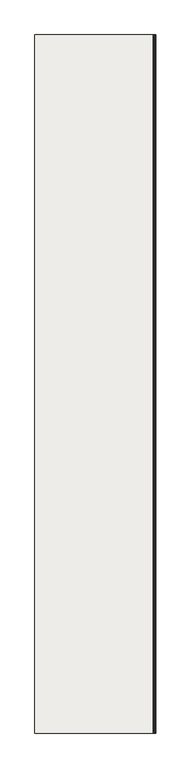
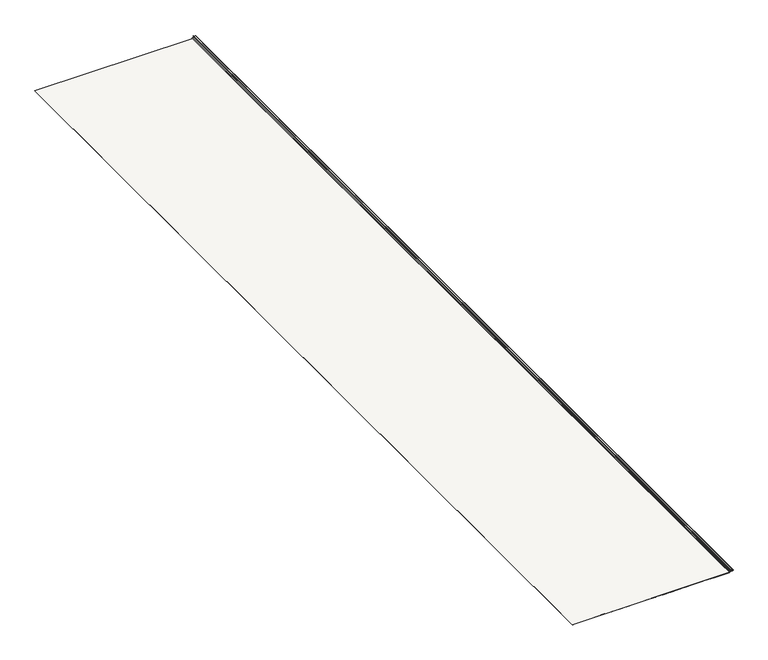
"""IFC4 building model written with IfcOpenShell, lengths in millimetres: covering geometry, Płyta warstwowa ścienna SPW-S CORE WOOL (pojedynczy arkusz) : -."""

from ifc_helpers import new_model, si_unit, frame, origin, place, context, project, spatial, polyline, circle_curve, source, transform, mapped, element, save
from ifc_brep_helpers import plane_surface, cylinder_surface, revolved_surface, advanced_brep


def covering_6310a69d(model_context):
    return source(origin(), model_context, "Body", "AdvancedBrep", [
        advanced_brep(
        [(-43.1186621, 0.0, -79.0), (-41.1186621, 0.0, -77.0), (-41.1186621, 0.0, -74.93), (-39.1884611, 0.0, -72.9312183), (-22.5992017, 0.0, -72.3519086), (-22.43132, 0.0, -67.5379716), (-33.6570079, 0.0, -66.9496582), (-36.5, 0.0, -63.9537696), (-36.5, 0.0, -61.4537696), (-35.5, 0.0, -61.4537696), (-35.5, 0.0, -63.9537696), (-33.6046719, 0.0, -65.9510287), (-22.6550677, 0.0, -66.5248731), (-22.6835162, 0.0, -73.3501612), (-39.1535616, 0.0, -73.9306092), (-40.1186621, 0.0, -74.93), (-40.1186621, 0.0, -77.0), (-43.1186621, 0.0, -80.0), (-90.0275239, 0.0, -80.0), (-91.4098003, 0.0, -79.6), (-135.6275239, 0.0, -79.6), (-137.0098003, 0.0, -80.0), (-181.2275239, 0.0, -80.0), (-182.6098003, 0.0, -79.6), (-226.8275239, 0.0, -79.6), (-228.2098003, 0.0, -80.0), (-272.4275239, 0.0, -80.0), (-273.8098003, 0.0, -79.6), (-318.0275239, 0.0, -79.6), (-319.4098003, 0.0, -80.0), (-363.6275239, 0.0, -80.0), (-365.0098003, 0.0, -79.6), (-409.2275239, 0.0, -79.6), (-410.6098003, 0.0, -80.0), (-454.8275239, 0.0, -80.0), (-456.2098003, 0.0, -79.6), (-500.4275239, 0.0, -79.6), (-501.8098003, 0.0, -80.0), (-546.0275239, 0.0, -80.0), (-547.4098003, 0.0, -79.6), (-591.6275239, 0.0, -79.6), (-593.0098003, 0.0, -80.0), (-637.2275239, 0.0, -80.0), (-638.6098003, 0.0, -79.6), (-682.8275239, 0.0, -79.6), (-684.2098003, 0.0, -80.0), (-728.4275239, 0.0, -80.0), (-729.8098003, 0.0, -79.6), (-774.0275239, 0.0, -79.6), (-775.4098003, 0.0, -80.0), (-819.6275239, 0.0, -80.0), (-821.0098003, 0.0, -79.6), (-865.2275239, 0.0, -79.6), (-866.6098003, 0.0, -80.0), (-910.8275239, 0.0, -80.0), (-912.2098003, 0.0, -79.6), (-956.4275239, 0.0, -79.6), (-957.8098003, 0.0, -80.0), (-1002.0275239, 0.0, -80.0), (-1003.4098003, 0.0, -79.6), (-1022.9974676, 0.0, -79.6), (-1022.9974676, 0.0, -79.0), (-1003.4098003, -5800.0, -79.6), (-1002.0275239, -5800.0, -80.0), (-957.8098003, -5800.0, -80.0), (-956.4275239, -5800.0, -79.6), (-912.2098003, -5800.0, -79.6), (-910.8275239, -5800.0, -80.0), (-866.6098003, -5800.0, -80.0), (-865.2275239, -5800.0, -79.6), (-821.0098003, -5800.0, -79.6), (-819.6275239, -5800.0, -80.0), (-775.4098003, -5800.0, -80.0), (-774.0275239, -5800.0, -79.6), (-729.8098003, -5800.0, -79.6), (-728.4275239, -5800.0, -80.0), (-684.2098003, -5800.0, -80.0), (-682.8275239, -5800.0, -79.6), (-638.6098003, -5800.0, -79.6), (-637.2275239, -5800.0, -80.0), (-593.0098003, -5800.0, -80.0), (-591.6275239, -5800.0, -79.6), (-547.4098003, -5800.0, -79.6), (-546.0275239, -5800.0, -80.0), (-501.8098003, -5800.0, -80.0), (-500.4275239, -5800.0, -79.6), (-456.2098003, -5800.0, -79.6), (-454.8275239, -5800.0, -80.0), (-410.6098003, -5800.0, -80.0), (-409.2275239, -5800.0, -79.6), (-365.0098003, -5800.0, -79.6), (-363.6275239, -5800.0, -80.0), (-319.4098003, -5800.0, -80.0), (-318.0275239, -5800.0, -79.6), (-273.8098003, -5800.0, -79.6), (-272.4275239, -5800.0, -80.0), (-228.2098003, -5800.0, -80.0), (-226.8275239, -5800.0, -79.6), (-182.6098003, -5800.0, -79.6), (-181.2275239, -5800.0, -80.0), (-137.0098003, -5800.0, -80.0), (-135.6275239, -5800.0, -79.6), (-91.4098003, -5800.0, -79.6), (-90.0275239, -5800.0, -80.0), (-43.1186621, -5800.0, -80.0), (-40.1186621, -5800.0, -77.0), (-40.1186621, -5800.0, -74.93), (-39.1535616, -5800.0, -73.9306092), (-22.7218558, -5800.0, -73.3568014), (-22.6550677, -5800.0, -66.5248731), (-33.6046719, -5800.0, -65.9510287), (-35.5, -5800.0, -63.9537696), (-35.5, -5800.0, -61.4537696), (-36.5, -5800.0, -61.4537696), (-36.5, -5800.0, -63.9537696), (-33.6570079, -5800.0, -66.9496582), (-22.43132, -5800.0, -67.5379716), (-22.5993141, -5800.0, -72.3486915), (-39.1884611, -5800.0, -72.9312183), (-41.1186621, -5800.0, -74.93), (-41.1186621, -5800.0, -77.0), (-43.1186621, -5800.0, -79.0), (-1022.9974676, -5800.0, -79.0), (-1022.9974676, -5800.0, -79.6)],
        [
            (0, 1, circle_curve(frame((-43.1186621, 0.0, -77.0), z_axis=(0.0, -1.0, 0.0), x_axis=(1.0, 0.0, 0.0)), 2.0)),
            (1, 2),
            (2, 3, circle_curve(frame((-39.1186621, 0.0, -74.93), z_axis=(0.0, 1.0, 0.0), x_axis=(1.0, 0.0, 0.0)), 2.0)),
            (3, 4),
            (4, 5, circle_curve(frame((-22.6835162, 0.0, -69.9374579), z_axis=(0.0, -1.0, 0.0), x_axis=(1.0, 0.0, 0.0)), 2.4127033)),
            (5, 6),
            (6, 7, circle_curve(frame((-33.5, 0.0, -63.9537696), z_axis=(0.0, 1.0, 0.0), x_axis=(1.0, 0.0, 0.0)), 3.0)),
            (7, 8),
            (8, 9),
            (9, 10),
            (10, 11, circle_curve(frame((-33.5, 0.0, -63.9537696), z_axis=(0.0, -1.0, 0.0), x_axis=(1.0, 0.0, 0.0)), 2.0)),
            (11, 12),
            (12, 13, circle_curve(frame((-22.6835162, 0.0, -69.9374579), z_axis=(0.0, 1.0, 0.0), x_axis=(1.0, 0.0, 0.0)), 3.4127033)),
            (13, 14),
            (14, 15, circle_curve(frame((-39.1186621, 0.0, -74.93), z_axis=(0.0, -1.0, 0.0), x_axis=(1.0, 0.0, 0.0)), 1.0)),
            (15, 16),
            (16, 17, circle_curve(frame((-43.1186621, 0.0, -77.0), z_axis=(0.0, 1.0, 0.0), x_axis=(1.0, 0.0, 0.0)), 3.0)),
            (17, 18),
            (18, 19),
            (19, 20),
            (20, 21),
            (21, 22),
            (22, 23),
            (23, 24),
            (24, 25),
            (25, 26),
            (26, 27),
            (27, 28),
            (28, 29),
            (29, 30),
            (30, 31),
            (31, 32),
            (32, 33),
            (33, 34),
            (34, 35),
            (35, 36),
            (36, 37),
            (37, 38),
            (38, 39),
            (39, 40),
            (40, 41),
            (41, 42),
            (42, 43),
            (43, 44),
            (44, 45),
            (45, 46),
            (46, 47),
            (47, 48),
            (48, 49),
            (49, 50),
            (50, 51),
            (51, 52),
            (52, 53),
            (53, 54),
            (54, 55),
            (55, 56),
            (56, 57),
            (57, 58),
            (58, 59),
            (59, 60),
            (60, 61),
            (61, 0),
            (62, 63),
            (63, 64),
            (64, 65),
            (65, 66),
            (66, 67),
            (67, 68),
            (68, 69),
            (69, 70),
            (70, 71),
            (71, 72),
            (72, 73),
            (73, 74),
            (74, 75),
            (75, 76),
            (76, 77),
            (77, 78),
            (78, 79),
            (79, 80),
            (80, 81),
            (81, 82),
            (82, 83),
            (83, 84),
            (84, 85),
            (85, 86),
            (86, 87),
            (87, 88),
            (88, 89),
            (89, 90),
            (90, 91),
            (91, 92),
            (92, 93),
            (93, 94),
            (94, 95),
            (95, 96),
            (96, 97),
            (97, 98),
            (98, 99),
            (99, 100),
            (100, 101),
            (101, 102),
            (102, 103),
            (103, 104),
            (104, 105, circle_curve(frame((-43.1186621, -5800.0, -77.0), z_axis=(0.0, -1.0, 0.0), x_axis=(1.0, 0.0, 0.0)), 3.0)),
            (105, 106),
            (106, 107, circle_curve(frame((-39.1186621, -5800.0, -74.93), z_axis=(0.0, 1.0, 0.0), x_axis=(1.0, 0.0, 0.0)), 1.0)),
            (107, 108),
            (108, 109, circle_curve(frame((-22.6835162, -5800.0, -69.9374579), z_axis=(0.0, -1.0, 0.0), x_axis=(1.0, 0.0, 0.0)), 3.4127033)),
            (109, 110),
            (110, 111, circle_curve(frame((-33.5, -5800.0, -63.9537696), z_axis=(0.0, 1.0, 0.0), x_axis=(1.0, 0.0, 0.0)), 2.0)),
            (111, 112),
            (112, 113),
            (113, 114),
            (114, 115, circle_curve(frame((-33.5, -5800.0, -63.9537696), z_axis=(0.0, -1.0, 0.0), x_axis=(1.0, 0.0, 0.0)), 3.0)),
            (115, 116),
            (116, 117, circle_curve(frame((-22.6835162, -5800.0, -69.9374579), z_axis=(0.0, 1.0, 0.0), x_axis=(1.0, 0.0, 0.0)), 2.4127033)),
            (117, 118),
            (118, 119, circle_curve(frame((-39.1186621, -5800.0, -74.93), z_axis=(0.0, -1.0, 0.0), x_axis=(1.0, 0.0, 0.0)), 2.0)),
            (119, 120),
            (120, 121, circle_curve(frame((-43.1186621, -5800.0, -77.0), z_axis=(0.0, 1.0, 0.0), x_axis=(1.0, 0.0, 0.0)), 2.0)),
            (121, 122),
            (122, 123),
            (123, 62),
            (121, 0),
            (61, 122),
            (2, 119),
            (118, 3),
            (1, 120),
            (117, 4),
            (5, 116),
            (115, 6),
            (114, 7),
            (113, 8),
            (112, 9),
            (16, 105),
            (104, 17),
            (15, 106),
            (14, 107),
            (13, 108),
            (11, 110),
            (109, 12),
            (10, 111),
            (103, 18),
            (102, 19),
            (101, 20),
            (100, 21),
            (99, 22),
            (98, 23),
            (97, 24),
            (96, 25),
            (95, 26),
            (94, 27),
            (93, 28),
            (92, 29),
            (91, 30),
            (90, 31),
            (89, 32),
            (88, 33),
            (87, 34),
            (86, 35),
            (85, 36),
            (84, 37),
            (83, 38),
            (82, 39),
            (81, 40),
            (80, 41),
            (79, 42),
            (78, 43),
            (77, 44),
            (76, 45),
            (75, 46),
            (74, 47),
            (73, 48),
            (72, 49),
            (71, 50),
            (70, 51),
            (69, 52),
            (68, 53),
            (67, 54),
            (66, 55),
            (65, 56),
            (64, 57),
            (63, 58),
            (62, 59),
            (123, 60),
        ],
        [
            plane_surface(frame((-35.0, 0.0, -81.0), z_axis=(0.0, 1.0, 0.0), x_axis=(1.0, 0.0, 0.0))),
            plane_surface(frame((-35.0, -5800.0, -81.0), z_axis=(0.0, -1.0, 0.0), x_axis=(1.0, 0.0, 0.0))),
            plane_surface(frame((-1185.0, 0.0, -79.0), z_axis=(0.0, 0.0, 1.0), x_axis=(0.0, -1.0, 0.0))),
            cylinder_surface(frame((-39.1186621, 0.0, -74.93), z_axis=(0.0, 1.0, 0.0), x_axis=(1.0, 0.0, 0.0)), 2.0),
            plane_surface(frame((-41.1186621, 0.0, -77.0), z_axis=(-1.0, 0.0, 0.0), x_axis=(0.0, -1.0, 0.0))),
            revolved_surface(polyline([(-41.1186621, -5800.0, -77.0), (-41.1186621, 0.0, -77.0)]), (-43.1186621, 0.0, -77.0), (0.0, -1.0, 0.0)),
            plane_surface(frame((-39.1884611, 0.0, -72.9312183), z_axis=(-0.03489949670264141, 0.0, 0.9993908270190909), x_axis=(0.0, -1.0, 0.0))),
            plane_surface(frame((-22.43132, 0.0, -67.5379716), z_axis=(-0.052335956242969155, 0.0, -0.9986295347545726), x_axis=(0.0, -1.0, 0.0))),
            cylinder_surface(frame((-33.5, 0.0, -63.9537696), z_axis=(0.0, 1.0, 0.0), x_axis=(1.0, 0.0, 0.0)), 3.0),
            plane_surface(frame((-36.5, 0.0, -63.9537696), z_axis=(-1.0, 0.0, 0.0), x_axis=(0.0, -1.0, 0.0))),
            plane_surface(frame((-36.5, 0.0, -61.4537696), z_axis=(0.0, 0.0, 1.0), x_axis=(0.0, -1.0, 0.0))),
            cylinder_surface(frame((-43.1186621, 0.0, -77.0), z_axis=(0.0, 1.0, 0.0), x_axis=(1.0, 0.0, 0.0)), 3.0),
            plane_surface(frame((-40.1186621, 0.0, -74.93), z_axis=(1.0, 0.0, 0.0), x_axis=(0.0, -1.0, 0.0))),
            revolved_surface(polyline([(-38.1186621, -5800.0, -74.93), (-38.1186621, 0.0, -74.93)]), (-39.1186621, 0.0, -74.93), (0.0, -1.0, 0.0)),
            plane_surface(frame((-22.7218558, 0.0, -73.3568014), z_axis=(0.0348994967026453, 0.0, -0.9993908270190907), x_axis=(0.0, -1.0, 0.0))),
            plane_surface(frame((-33.6046719, 0.0, -65.9510287), z_axis=(0.05233595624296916, 0.0, 0.9986295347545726), x_axis=(0.0, -1.0, 0.0))),
            revolved_surface(polyline([(-31.5, -5800.0, -63.9537696), (-31.5, 0.0, -63.9537696)]), (-33.5, 0.0, -63.9537696), (0.0, -1.0, 0.0)),
            cylinder_surface(frame((-22.6835162, 0.0, -69.9374579), z_axis=(0.0, 1.0, 0.0), x_axis=(1.0, 0.0, 0.0)), 3.4127033),
            revolved_surface(polyline([(-20.2708129, -5800.0, -69.9374579), (-20.2708129, 0.0, -69.9374579)]), (-22.6835162, 0.0, -69.9374579), (0.0, -1.0, 0.0)),
            plane_surface(frame((-35.5, 0.0, -61.4537696), z_axis=(1.0, 0.0, 0.0), x_axis=(0.0, -1.0, 0.0))),
            plane_surface(frame((-43.1186621, 0.0, -80.0), z_axis=(0.0, 0.0, -1.0), x_axis=(0.0, -1.0, 0.0))),
            plane_surface(frame((-90.0275239, 0.0, -80.0), z_axis=(-0.27797301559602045, 0.0, -0.9605888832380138), x_axis=(0.0, -1.0, 0.0))),
            plane_surface(frame((-91.4098003, 0.0, -79.6), z_axis=(0.0, 0.0, -1.0), x_axis=(0.0, -1.0, 0.0))),
            plane_surface(frame((-135.6275239, 0.0, -79.6), z_axis=(0.27797301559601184, 0.0, -0.9605888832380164), x_axis=(0.0, -1.0, 0.0))),
            plane_surface(frame((-137.0098003, 0.0, -80.0), z_axis=(0.0, 0.0, -1.0), x_axis=(0.0, -1.0, 0.0))),
            plane_surface(frame((-181.2275239, 0.0, -80.0), z_axis=(-0.27797301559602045, 0.0, -0.9605888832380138), x_axis=(0.0, -1.0, 0.0))),
            plane_surface(frame((-182.6098003, 0.0, -79.6), z_axis=(0.0, 0.0, -1.0), x_axis=(0.0, -1.0, 0.0))),
            plane_surface(frame((-226.8275239, 0.0, -79.6), z_axis=(0.27797301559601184, 0.0, -0.9605888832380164), x_axis=(0.0, -1.0, 0.0))),
            plane_surface(frame((-228.2098003, 0.0, -80.0), z_axis=(0.0, 0.0, -1.0), x_axis=(0.0, -1.0, 0.0))),
            plane_surface(frame((-272.4275239, 0.0, -80.0), z_axis=(-0.27797301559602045, 0.0, -0.9605888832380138), x_axis=(0.0, -1.0, 0.0))),
            plane_surface(frame((-273.8098003, 0.0, -79.6), z_axis=(0.0, 0.0, -1.0), x_axis=(0.0, -1.0, 0.0))),
            plane_surface(frame((-318.0275239, 0.0, -79.6), z_axis=(0.27797301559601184, 0.0, -0.9605888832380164), x_axis=(0.0, -1.0, 0.0))),
            plane_surface(frame((-319.4098003, 0.0, -80.0), z_axis=(0.0, 0.0, -1.0), x_axis=(0.0, -1.0, 0.0))),
            plane_surface(frame((-363.6275239, 0.0, -80.0), z_axis=(-0.27797301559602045, 0.0, -0.9605888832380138), x_axis=(0.0, -1.0, 0.0))),
            plane_surface(frame((-365.0098003, 0.0, -79.6), z_axis=(0.0, 0.0, -1.0), x_axis=(0.0, -1.0, 0.0))),
            plane_surface(frame((-409.2275239, 0.0, -79.6), z_axis=(0.27797301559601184, 0.0, -0.9605888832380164), x_axis=(0.0, -1.0, 0.0))),
            plane_surface(frame((-410.6098003, 0.0, -80.0), z_axis=(0.0, 0.0, -1.0), x_axis=(0.0, -1.0, 0.0))),
            plane_surface(frame((-454.8275239, 0.0, -80.0), z_axis=(-0.27797301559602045, 0.0, -0.9605888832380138), x_axis=(0.0, -1.0, 0.0))),
            plane_surface(frame((-456.2098003, 0.0, -79.6), z_axis=(0.0, 0.0, -1.0), x_axis=(0.0, -1.0, 0.0))),
            plane_surface(frame((-500.4275239, 0.0, -79.6), z_axis=(0.27797301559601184, 0.0, -0.9605888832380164), x_axis=(0.0, -1.0, 0.0))),
            plane_surface(frame((-501.8098003, 0.0, -80.0), z_axis=(0.0, 0.0, -1.0), x_axis=(0.0, -1.0, 0.0))),
            plane_surface(frame((-546.0275239, 0.0, -80.0), z_axis=(-0.27797301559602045, 0.0, -0.9605888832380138), x_axis=(0.0, -1.0, 0.0))),
            plane_surface(frame((-547.4098003, 0.0, -79.6), z_axis=(0.0, 0.0, -1.0), x_axis=(0.0, -1.0, 0.0))),
            plane_surface(frame((-591.6275239, 0.0, -79.6), z_axis=(0.27797301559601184, 0.0, -0.9605888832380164), x_axis=(0.0, -1.0, 0.0))),
            plane_surface(frame((-593.0098003, 0.0, -80.0), z_axis=(0.0, 0.0, -1.0), x_axis=(0.0, -1.0, 0.0))),
            plane_surface(frame((-637.2275239, 0.0, -80.0), z_axis=(-0.27797301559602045, 0.0, -0.9605888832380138), x_axis=(0.0, -1.0, 0.0))),
            plane_surface(frame((-638.6098003, 0.0, -79.6), z_axis=(0.0, 0.0, -1.0), x_axis=(0.0, -1.0, 0.0))),
            plane_surface(frame((-682.8275239, 0.0, -79.6), z_axis=(0.27797301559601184, 0.0, -0.9605888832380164), x_axis=(0.0, -1.0, 0.0))),
            plane_surface(frame((-684.2098003, 0.0, -80.0), z_axis=(0.0, 0.0, -1.0), x_axis=(0.0, -1.0, 0.0))),
            plane_surface(frame((-728.4275239, 0.0, -80.0), z_axis=(-0.27797301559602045, 0.0, -0.9605888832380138), x_axis=(0.0, -1.0, 0.0))),
            plane_surface(frame((-729.8098003, 0.0, -79.6), z_axis=(0.0, 0.0, -1.0), x_axis=(0.0, -1.0, 0.0))),
            plane_surface(frame((-774.0275239, 0.0, -79.6), z_axis=(0.27797301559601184, 0.0, -0.9605888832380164), x_axis=(0.0, -1.0, 0.0))),
            plane_surface(frame((-775.4098003, 0.0, -80.0), z_axis=(0.0, 0.0, -1.0), x_axis=(0.0, -1.0, 0.0))),
            plane_surface(frame((-819.6275239, 0.0, -80.0), z_axis=(-0.27797301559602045, 0.0, -0.9605888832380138), x_axis=(0.0, -1.0, 0.0))),
            plane_surface(frame((-821.0098003, 0.0, -79.6), z_axis=(0.0, 0.0, -1.0), x_axis=(0.0, -1.0, 0.0))),
            plane_surface(frame((-865.2275239, 0.0, -79.6), z_axis=(0.27797301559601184, 0.0, -0.9605888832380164), x_axis=(0.0, -1.0, 0.0))),
            plane_surface(frame((-866.6098003, 0.0, -80.0), z_axis=(0.0, 0.0, -1.0), x_axis=(0.0, -1.0, 0.0))),
            plane_surface(frame((-910.8275239, 0.0, -80.0), z_axis=(-0.27797301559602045, 0.0, -0.9605888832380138), x_axis=(0.0, -1.0, 0.0))),
            plane_surface(frame((-912.2098003, 0.0, -79.6), z_axis=(0.0, 0.0, -1.0), x_axis=(0.0, -1.0, 0.0))),
            plane_surface(frame((-956.4275239, 0.0, -79.6), z_axis=(0.27797301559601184, 0.0, -0.9605888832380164), x_axis=(0.0, -1.0, 0.0))),
            plane_surface(frame((-957.8098003, 0.0, -80.0), z_axis=(0.0, 0.0, -1.0), x_axis=(0.0, -1.0, 0.0))),
            plane_surface(frame((-1002.0275239, 0.0, -80.0), z_axis=(-0.27797301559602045, 0.0, -0.9605888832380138), x_axis=(0.0, -1.0, 0.0))),
            plane_surface(frame((-1003.4098003, 0.0, -79.6), z_axis=(0.0, 0.0, -1.0), x_axis=(0.0, -1.0, 0.0))),
            plane_surface(frame((-1022.9974676, -5800.0, -113.983714), z_axis=(-1.0, 0.0, 0.0), x_axis=(0.0, 1.0, 0.0))),
        ],
        [
            (0, [[1, 2, 3, 4, 5, 6, 7, 8, 9, 10, 11, 12, 13, 14, 15, 16, 17, 18, 19, 20, 21, 22, 23, 24, 25, 26, 27, 28, 29, 30, 31, 32, 33, 34, 35, 36, 37, 38, 39, 40, 41, 42, 43, 44, 45, 46, 47, 48, 49, 50, 51, 52, 53, 54, 55, 56, 57, 58, 59, 60, 61, 62]]),
            (1, [[63, 64, 65, 66, 67, 68, 69, 70, 71, 72, 73, 74, 75, 76, 77, 78, 79, 80, 81, 82, 83, 84, 85, 86, 87, 88, 89, 90, 91, 92, 93, 94, 95, 96, 97, 98, 99, 100, 101, 102, 103, 104, 105, 106, 107, 108, 109, 110, 111, 112, 113, 114, 115, 116, 117, 118, 119, 120, 121, 122, 123, 124]]),
            (2, [[125, -62, 126, -122]]),
            (3, [[-3, 127, -119, 128]]),
            (4, [[-2, 129, -120, -127]]),
            (5, [[-1, -125, -121, -129]]),
            (6, [[-4, -128, -118, 130]]),
            (7, [[-6, 131, -116, 132]]),
            (8, [[-7, -132, -115, 133]]),
            (9, [[-8, -133, -114, 134]]),
            (10, [[-9, -134, -113, 135]]),
            (11, [[-17, 136, -105, 137]]),
            (12, [[-16, 138, -106, -136]]),
            (13, [[-15, 139, -107, -138]]),
            (14, [[-14, 140, -108, -139]]),
            (15, [[-12, 141, -110, 142]]),
            (16, [[-11, 143, -111, -141]]),
            (17, [[-13, -142, -109, -140]]),
            (18, [[-5, -130, -117, -131]]),
            (19, [[-10, -135, -112, -143]]),
            (20, [[-18, -137, -104, 144]]),
            (21, [[-19, -144, -103, 145]]),
            (22, [[-20, -145, -102, 146]]),
            (23, [[-21, -146, -101, 147]]),
            (24, [[-22, -147, -100, 148]]),
            (25, [[-23, -148, -99, 149]]),
            (26, [[-24, -149, -98, 150]]),
            (27, [[-25, -150, -97, 151]]),
            (28, [[-26, -151, -96, 152]]),
            (29, [[-27, -152, -95, 153]]),
            (30, [[-28, -153, -94, 154]]),
            (31, [[-29, -154, -93, 155]]),
            (32, [[-30, -155, -92, 156]]),
            (33, [[-31, -156, -91, 157]]),
            (34, [[-32, -157, -90, 158]]),
            (35, [[-33, -158, -89, 159]]),
            (36, [[-34, -159, -88, 160]]),
            (37, [[-35, -160, -87, 161]]),
            (38, [[-36, -161, -86, 162]]),
            (39, [[-37, -162, -85, 163]]),
            (40, [[-38, -163, -84, 164]]),
            (41, [[-39, -164, -83, 165]]),
            (42, [[-40, -165, -82, 166]]),
            (43, [[-41, -166, -81, 167]]),
            (44, [[-42, -167, -80, 168]]),
            (45, [[-43, -168, -79, 169]]),
            (46, [[-44, -169, -78, 170]]),
            (47, [[-45, -170, -77, 171]]),
            (48, [[-46, -171, -76, 172]]),
            (49, [[-47, -172, -75, 173]]),
            (50, [[-48, -173, -74, 174]]),
            (51, [[-49, -174, -73, 175]]),
            (52, [[-50, -175, -72, 176]]),
            (53, [[-51, -176, -71, 177]]),
            (54, [[-52, -177, -70, 178]]),
            (55, [[-53, -178, -69, 179]]),
            (56, [[-54, -179, -68, 180]]),
            (57, [[-55, -180, -67, 181]]),
            (58, [[-56, -181, -66, 182]]),
            (59, [[-57, -182, -65, 183]]),
            (60, [[-58, -183, -64, 184]]),
            (61, [[-59, -184, -63, 185]]),
            (62, [[-185, -124, 186, -60]]),
            (63, [[-61, -186, -123, -126]]),
        ],
    ),
    ])


if __name__ == "__main__":
    model = new_model("IFC4")
    model_context = context("Model", 3, world=origin())
    ifc_project = project(units=[si_unit("LENGTHUNIT", "METRE", prefix="MILLI")], contexts=[model_context])
    site = spatial("IfcSite", under=ifc_project)
    building = spatial("IfcBuilding", under=site)
    placement = place(None, origin())
    covering_shape = covering_6310a69d(model_context)
    element("IfcCovering", 1, ObjectType="Płyta warstwowa ścienna SPW-S CORE WOOL (pojedynczy arkusz) : -", at=placement, inside=building, context=model_context, shape_type="MappedRepresentation", body=[
        mapped(covering_shape, transform((0.0, 0.0, 0.0), x_axis=(1.0, 0.0, 0.0), y_axis=(0.0, 1.0, 0.0), z_axis=(0.0, 0.0, 1.0))),
    ])
    save(model, "model.ifc")
